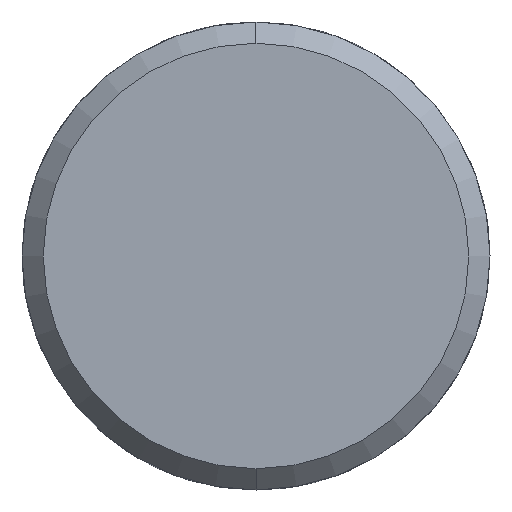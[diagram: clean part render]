
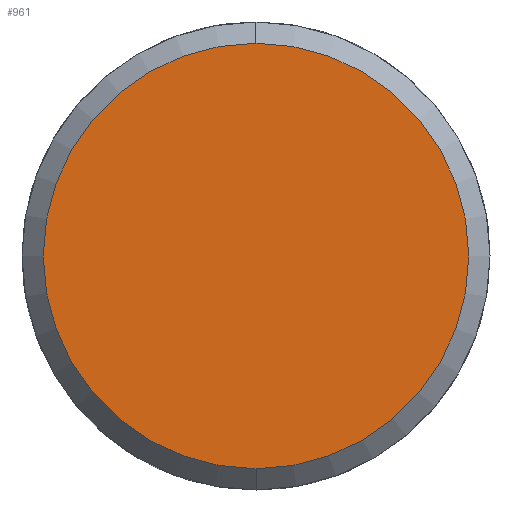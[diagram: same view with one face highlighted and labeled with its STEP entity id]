
A CAD part, left-side view. The second image highlights one B-rep face of the part: STEP entity #961.
In plain terms, the highlighted planar face has unit normal (-1, 0, 0).
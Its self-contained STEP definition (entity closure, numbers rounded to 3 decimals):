
#893=CARTESIAN_POINT('Vertex',(-5.,0.,-10.)) ;
#896=CARTESIAN_POINT('Axis2P3D Location',(-5.,0.,0.)) ;
#900=CARTESIAN_POINT('Vertex',(-5.,10.,0.)) ;
#903=CARTESIAN_POINT('Axis2P3D Location',(-5.,0.,0.)) ;
#907=CARTESIAN_POINT('Vertex',(-5.,0.,10.)) ;
#929=CARTESIAN_POINT('Axis2P3D Location',(-5.,0.,0.)) ;
#933=CARTESIAN_POINT('Vertex',(-5.,-10.,0.)) ;
#936=CARTESIAN_POINT('Axis2P3D Location',(-5.,0.,0.)) ;
#950=CARTESIAN_POINT('Axis2P3D Location',(-5.,0.,0.)) ;
#897=DIRECTION('Axis2P3D Direction',(1.,0.,-0.)) ;
#904=DIRECTION('Axis2P3D Direction',(1.,0.,-0.)) ;
#930=DIRECTION('Axis2P3D Direction',(1.,0.,-0.)) ;
#937=DIRECTION('Axis2P3D Direction',(1.,0.,-0.)) ;
#951=DIRECTION('Axis2P3D Direction',(1.,0.,-0.)) ;
#952=DIRECTION('Axis2P3D XDirection',(-0.,0.,-1.)) ;
#898=AXIS2_PLACEMENT_3D('Circle Axis2P3D',#896,#897,$) ;
#905=AXIS2_PLACEMENT_3D('Circle Axis2P3D',#903,#904,$) ;
#931=AXIS2_PLACEMENT_3D('Circle Axis2P3D',#929,#930,$) ;
#938=AXIS2_PLACEMENT_3D('Circle Axis2P3D',#936,#937,$) ;
#953=AXIS2_PLACEMENT_3D('Plane Axis2P3D',#950,#951,#952) ;
#956=ORIENTED_EDGE('',*,*,#902,.F.) ;
#957=ORIENTED_EDGE('',*,*,#940,.F.) ;
#958=ORIENTED_EDGE('',*,*,#935,.F.) ;
#959=ORIENTED_EDGE('',*,*,#909,.F.) ;
#961=ADVANCED_FACE('351-12X36X50',(#960),#954,.F.) ;
#899=CIRCLE('generated circle',#898,10.) ;
#906=CIRCLE('generated circle',#905,10.) ;
#932=CIRCLE('generated circle',#931,10.) ;
#939=CIRCLE('generated circle',#938,10.) ;
#902=EDGE_CURVE('',#894,#901,#899,.T.) ;
#909=EDGE_CURVE('',#901,#908,#906,.T.) ;
#935=EDGE_CURVE('',#908,#934,#932,.T.) ;
#940=EDGE_CURVE('',#934,#894,#939,.T.) ;
#955=EDGE_LOOP('',(#956,#957,#958,#959)) ;
#960=FACE_OUTER_BOUND('',#955,.T.) ;
#954=PLANE('Plane',#953) ;
#894=VERTEX_POINT('',#893) ;
#901=VERTEX_POINT('',#900) ;
#908=VERTEX_POINT('',#907) ;
#934=VERTEX_POINT('',#933) ;
